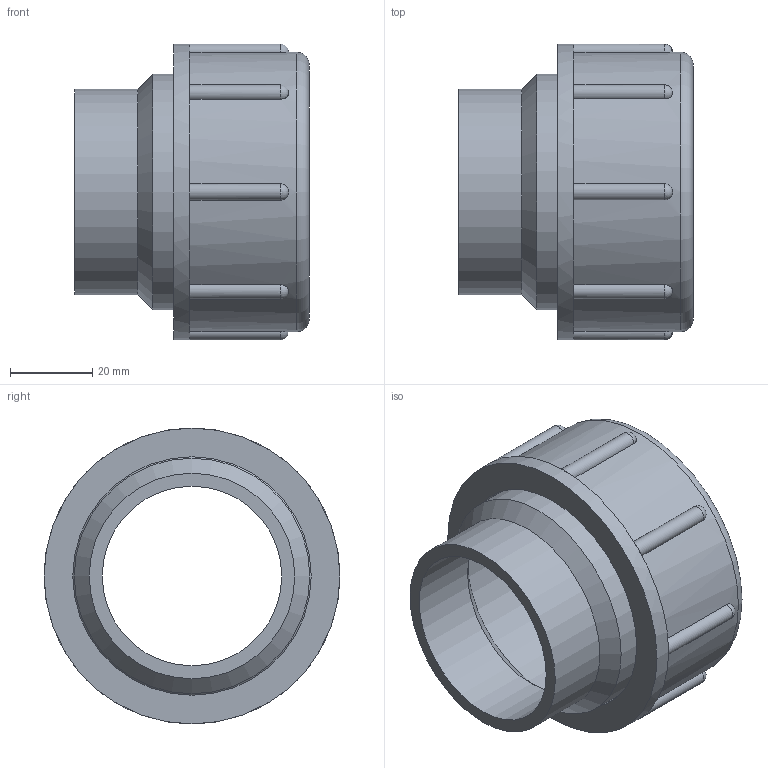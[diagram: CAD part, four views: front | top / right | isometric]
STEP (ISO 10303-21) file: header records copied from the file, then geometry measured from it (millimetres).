
FILE_DESCRIPTION((''),'2;1');
FILE_NAME('F:\Geberit_PE\Export\PE Verschraubung\stp\361740.stp','2011-03-17T20:58:22',(''),(''),'Autodesk Inventor 2011','Autodesk Inventor 2011','');
FILE_SCHEMA(('AUTOMOTIVE_DESIGN { 1 2 10303 214 0 1 1 1 }'));
Length unit declared in the file: millimetre
Products named in the file (1): 361740
Bounding box: 57 x 72 x 72 mm (x, y, z)
Volume: 66214.1 mm3; surface area: 29766.7 mm2
Topology: 2 solids, 2 shells, 51 faces, 141 edges, 85 vertices
Faces by surface type: cylinder 20, plane 14, cone 8, sphere 8, torus 1
Full cylindrical faces by diameter (mm): 43.7 x1, 50 x1, 50.7 x2, 50.9 x1, 57.3 x2, 57.8 x1, 58 x2, 68 x1, 72 x1
Entity records: 1660 total; most frequent: CARTESIAN_POINT 419, DIRECTION 272, ORIENTED_EDGE 216, AXIS2_PLACEMENT_3D 128, EDGE_CURVE 108, VERTEX_POINT 83, EDGE_LOOP 78, CIRCLE 76
